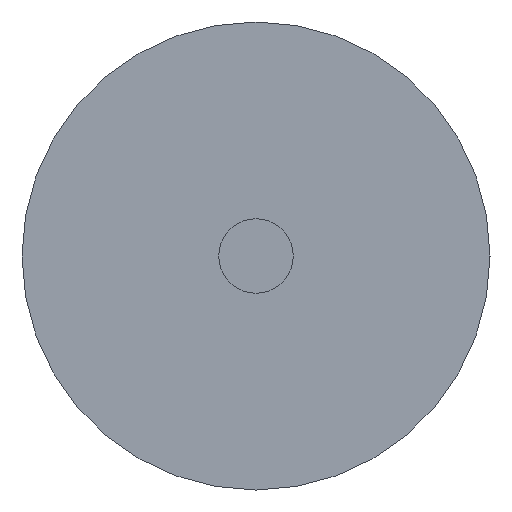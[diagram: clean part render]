
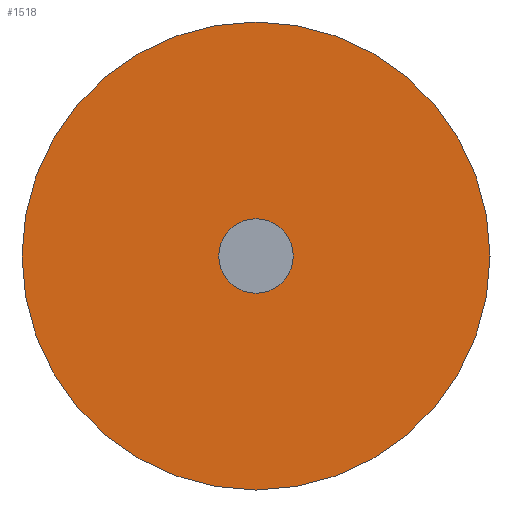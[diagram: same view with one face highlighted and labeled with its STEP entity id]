
A CAD part, left-side view. The second image highlights one B-rep face of the part: STEP entity #1518.
In plain terms, the highlighted planar face has unit normal (-1, 0, 0).
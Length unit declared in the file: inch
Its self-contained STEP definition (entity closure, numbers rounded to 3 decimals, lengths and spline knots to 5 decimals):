
#49 = VERTEX_POINT ( 'NONE', #131 ) ;
#58 = DIRECTION ( 'NONE',  ( 1., 0., 0. ) ) ;
#68 = ORIENTED_EDGE ( 'NONE', *, *, #2346, .F. ) ;
#100 = ORIENTED_EDGE ( 'NONE', *, *, #2311, .F. ) ;
#123 = ORIENTED_EDGE ( 'NONE', *, *, #1239, .T. ) ;
#126 = ORIENTED_EDGE ( 'NONE', *, *, #1930, .T. ) ;
#131 = CARTESIAN_POINT ( 'NONE',  ( 0., 0., -0.0125 ) ) ;
#247 = FACE_OUTER_BOUND ( 'NONE', #753, .T. ) ;
#287 = AXIS2_PLACEMENT_3D ( 'NONE', #463, #1183, #1913 ) ;
#324 = CIRCLE ( 'NONE', #287, 0.07852 ) ;
#463 = CARTESIAN_POINT ( 'NONE',  ( 0., 0., 0. ) ) ;
#707 = CARTESIAN_POINT ( 'NONE',  ( 0., 0., 0. ) ) ;
#709 = DIRECTION ( 'NONE',  ( -1., 0., 0. ) ) ;
#753 = EDGE_LOOP ( 'NONE', ( #123, #126 ) ) ;
#795 = DIRECTION ( 'NONE',  ( 0., 0., -1. ) ) ;
#807 = VERTEX_POINT ( 'NONE', #2112 ) ;
#846 = VERTEX_POINT ( 'NONE', #1021 ) ;
#908 = CARTESIAN_POINT ( 'NONE',  ( 0., 0., 0. ) ) ;
#928 = VERTEX_POINT ( 'NONE', #1427 ) ;
#972 = PLANE ( 'NONE',  #2040 ) ;
#1021 = CARTESIAN_POINT ( 'NONE',  ( 0., 0., -0.07852 ) ) ;
#1183 = DIRECTION ( 'NONE',  ( -1., 0., 0. ) ) ;
#1239 = EDGE_CURVE ( 'NONE', #928, #846, #1829, .T. ) ;
#1424 = DIRECTION ( 'NONE',  ( -1., 0., 0. ) ) ;
#1425 = DIRECTION ( 'NONE',  ( 0., 0., 1. ) ) ;
#1427 = CARTESIAN_POINT ( 'NONE',  ( 0., 0., 0.07852 ) ) ;
#1452 = CIRCLE ( 'NONE', #2002, 0.0125 ) ;
#1518 = ADVANCED_FACE ( 'NONE', ( #1871, #247 ), #972, .F. ) ;
#1528 = CIRCLE ( 'NONE', #1579, 0.0125 ) ;
#1579 = AXIS2_PLACEMENT_3D ( 'NONE', #2349, #709, #1425 ) ;
#1628 = DIRECTION ( 'NONE',  ( -1., 0., 0. ) ) ;
#1690 = CARTESIAN_POINT ( 'NONE',  ( 0., 0., 0. ) ) ;
#1829 = CIRCLE ( 'NONE', #1837, 0.07852 ) ;
#1837 = AXIS2_PLACEMENT_3D ( 'NONE', #707, #1424, #2166 ) ;
#1871 = FACE_BOUND ( 'NONE', #2251, .T. ) ;
#1913 = DIRECTION ( 'NONE',  ( 0., 0., 1. ) ) ;
#1930 = EDGE_CURVE ( 'NONE', #846, #928, #324, .T. ) ;
#2002 = AXIS2_PLACEMENT_3D ( 'NONE', #908, #1628, #2367 ) ;
#2040 = AXIS2_PLACEMENT_3D ( 'NONE', #1690, #58, #795 ) ;
#2112 = CARTESIAN_POINT ( 'NONE',  ( 0., 0., 0.0125 ) ) ;
#2166 = DIRECTION ( 'NONE',  ( 0., 0., 1. ) ) ;
#2251 = EDGE_LOOP ( 'NONE', ( #68, #100 ) ) ;
#2311 = EDGE_CURVE ( 'NONE', #49, #807, #1528, .T. ) ;
#2346 = EDGE_CURVE ( 'NONE', #807, #49, #1452, .T. ) ;
#2349 = CARTESIAN_POINT ( 'NONE',  ( 0., 0., 0. ) ) ;
#2367 = DIRECTION ( 'NONE',  ( 0., 0., 1. ) ) ;
